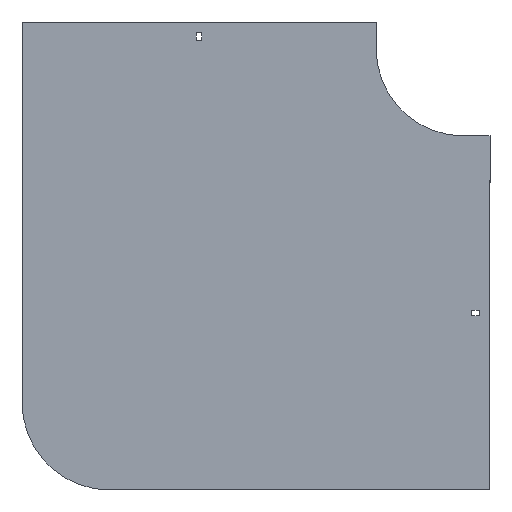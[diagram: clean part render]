
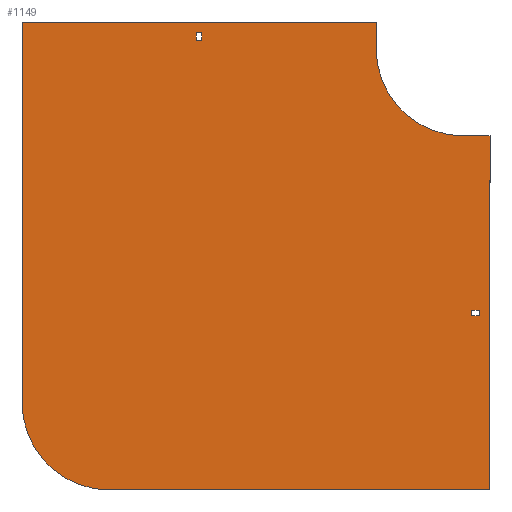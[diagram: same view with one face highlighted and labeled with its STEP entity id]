
A CAD part, front view. The second image highlights one B-rep face of the part: STEP entity #1149.
In plain terms, the highlighted planar face has unit normal (0, -1, 0).
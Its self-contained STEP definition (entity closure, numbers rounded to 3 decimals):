
#3 = LINE ( 'NONE', #772, #1320 ) ;
#5 = LINE ( 'NONE', #975, #1184 ) ;
#21 = DIRECTION ( 'NONE',  ( 1., 0., 0. ) ) ;
#27 = DIRECTION ( 'NONE',  ( 0., 0., -1. ) ) ;
#52 = VERTEX_POINT ( 'NONE', #646 ) ;
#72 = VERTEX_POINT ( 'NONE', #1010 ) ;
#111 = EDGE_CURVE ( 'NONE', #499, #1269, #369, .T. ) ;
#120 = ORIENTED_EDGE ( 'NONE', *, *, #389, .F. ) ;
#139 = VERTEX_POINT ( 'NONE', #1370 ) ;
#147 = DIRECTION ( 'NONE',  ( 0., 0., 1. ) ) ;
#150 = ORIENTED_EDGE ( 'NONE', *, *, #111, .F. ) ;
#153 = AXIS2_PLACEMENT_3D ( 'NONE', #881, #343, #1202 ) ;
#157 = DIRECTION ( 'NONE',  ( 0., 0., 1. ) ) ;
#160 = LINE ( 'NONE', #1106, #757 ) ;
#176 = LINE ( 'NONE', #619, #347 ) ;
#178 = EDGE_CURVE ( 'NONE', #1135, #312, #821, .T. ) ;
#181 = CARTESIAN_POINT ( 'NONE',  ( -404., 0., -404. ) ) ;
#182 = ORIENTED_EDGE ( 'NONE', *, *, #1034, .T. ) ;
#194 = ORIENTED_EDGE ( 'NONE', *, *, #832, .F. ) ;
#199 = DIRECTION ( 'NONE',  ( 1., 0., 0. ) ) ;
#218 = EDGE_CURVE ( 'NONE', #1060, #979, #5, .T. ) ;
#232 = CARTESIAN_POINT ( 'NONE',  ( 9., 0., -305.25 ) ) ;
#233 = DIRECTION ( 'NONE',  ( -1., 0., 0. ) ) ;
#234 = ORIENTED_EDGE ( 'NONE', *, *, #1319, .F. ) ;
#255 = CARTESIAN_POINT ( 'NONE',  ( 30., 0., -100. ) ) ;
#260 = DIRECTION ( 'NONE',  ( 0., 0., -1. ) ) ;
#263 = EDGE_LOOP ( 'NONE', ( #120, #444, #436, #1337, #234, #403, #194, #1126 ) ) ;
#281 = EDGE_CURVE ( 'NONE', #72, #983, #775, .T. ) ;
#284 = LINE ( 'NONE', #303, #1341 ) ;
#292 = VERTEX_POINT ( 'NONE', #1313 ) ;
#299 = CARTESIAN_POINT ( 'NONE',  ( 18., 0., -305.25 ) ) ;
#303 = CARTESIAN_POINT ( 'NONE',  ( -298.75, 0., 9. ) ) ;
#312 = VERTEX_POINT ( 'NONE', #441 ) ;
#323 = DIRECTION ( 'NONE',  ( 0., 1., 0. ) ) ;
#337 = CARTESIAN_POINT ( 'NONE',  ( -404., 0., -504. ) ) ;
#343 = DIRECTION ( 'NONE',  ( 0., -1., 0. ) ) ;
#347 = VECTOR ( 'NONE', #233, 1000. ) ;
#357 = VECTOR ( 'NONE', #27, 1000. ) ;
#369 = LINE ( 'NONE', #1224, #1291 ) ;
#389 = EDGE_CURVE ( 'NONE', #139, #1060, #1056, .T. ) ;
#403 = ORIENTED_EDGE ( 'NONE', *, *, #520, .F. ) ;
#418 = LINE ( 'NONE', #507, #952 ) ;
#435 = FACE_OUTER_BOUND ( 'NONE', #263, .T. ) ;
#436 = ORIENTED_EDGE ( 'NONE', *, *, #178, .F. ) ;
#441 = CARTESIAN_POINT ( 'NONE',  ( -504., 0., -404. ) ) ;
#442 = FACE_BOUND ( 'NONE', #1288, .T. ) ;
#444 = ORIENTED_EDGE ( 'NONE', *, *, #477, .F. ) ;
#463 = VERTEX_POINT ( 'NONE', #903 ) ;
#477 = EDGE_CURVE ( 'NONE', #312, #139, #160, .T. ) ;
#489 = ORIENTED_EDGE ( 'NONE', *, *, #558, .F. ) ;
#499 = VERTEX_POINT ( 'NONE', #783 ) ;
#507 = CARTESIAN_POINT ( 'NONE',  ( -305.25, 0., 9. ) ) ;
#510 = VECTOR ( 'NONE', #21, 1000. ) ;
#511 = ORIENTED_EDGE ( 'NONE', *, *, #1021, .T. ) ;
#512 = VERTEX_POINT ( 'NONE', #579 ) ;
#520 = EDGE_CURVE ( 'NONE', #726, #779, #770, .T. ) ;
#552 = LINE ( 'NONE', #1385, #953 ) ;
#558 = EDGE_CURVE ( 'NONE', #463, #499, #176, .T. ) ;
#579 = CARTESIAN_POINT ( 'NONE',  ( -305.25, 0., 9. ) ) ;
#619 = CARTESIAN_POINT ( 'NONE',  ( 9., 0., -298.75 ) ) ;
#646 = CARTESIAN_POINT ( 'NONE',  ( -298.75, 0., 9. ) ) ;
#673 = DIRECTION ( 'NONE',  ( 1., 0., 0. ) ) ;
#677 = CARTESIAN_POINT ( 'NONE',  ( -305.25, 0., 9. ) ) ;
#704 = CARTESIAN_POINT ( 'NONE',  ( 18., 0., -305.25 ) ) ;
#710 = DIRECTION ( 'NONE',  ( 0., 0., -1. ) ) ;
#713 = EDGE_CURVE ( 'NONE', #292, #1135, #552, .T. ) ;
#721 = EDGE_CURVE ( 'NONE', #966, #463, #1071, .T. ) ;
#726 = VERTEX_POINT ( 'NONE', #729 ) ;
#729 = CARTESIAN_POINT ( 'NONE',  ( 0., 0., -100. ) ) ;
#755 = DIRECTION ( 'NONE',  ( 0., 0., 1. ) ) ;
#757 = VECTOR ( 'NONE', #147, 1000. ) ;
#762 = FACE_BOUND ( 'NONE', #1075, .T. ) ;
#770 = LINE ( 'NONE', #1063, #800 ) ;
#772 = CARTESIAN_POINT ( 'NONE',  ( 9., 0., -305.25 ) ) ;
#775 = LINE ( 'NONE', #981, #510 ) ;
#779 = VERTEX_POINT ( 'NONE', #255 ) ;
#783 = CARTESIAN_POINT ( 'NONE',  ( 9., 0., -298.75 ) ) ;
#800 = VECTOR ( 'NONE', #199, 1000. ) ;
#821 = CIRCLE ( 'NONE', #868, 100. ) ;
#832 = EDGE_CURVE ( 'NONE', #979, #726, #951, .T. ) ;
#837 = CARTESIAN_POINT ( 'NONE',  ( -100., 0., 30. ) ) ;
#840 = DIRECTION ( 'NONE',  ( -1., 0., 0. ) ) ;
#845 = DIRECTION ( 'NONE',  ( -1., 0., 0. ) ) ;
#865 = DIRECTION ( 'NONE',  ( 0., -1., 0. ) ) ;
#868 = AXIS2_PLACEMENT_3D ( 'NONE', #181, #323, #755 ) ;
#877 = ORIENTED_EDGE ( 'NONE', *, *, #1278, .F. ) ;
#881 = CARTESIAN_POINT ( 'NONE',  ( 0., 0., 0. ) ) ;
#900 = VECTOR ( 'NONE', #157, 1000. ) ;
#903 = CARTESIAN_POINT ( 'NONE',  ( 18., 0., -298.75 ) ) ;
#908 = CARTESIAN_POINT ( 'NONE',  ( -298.75, 0., 18. ) ) ;
#934 = CARTESIAN_POINT ( 'NONE',  ( -504., 0., 30. ) ) ;
#935 = ORIENTED_EDGE ( 'NONE', *, *, #721, .F. ) ;
#951 = CIRCLE ( 'NONE', #153, 100. ) ;
#952 = VECTOR ( 'NONE', #845, 1000. ) ;
#953 = VECTOR ( 'NONE', #840, 1000. ) ;
#966 = VERTEX_POINT ( 'NONE', #704 ) ;
#975 = CARTESIAN_POINT ( 'NONE',  ( -100., 0., 30. ) ) ;
#979 = VERTEX_POINT ( 'NONE', #1113 ) ;
#981 = CARTESIAN_POINT ( 'NONE',  ( -305.25, 0., 18. ) ) ;
#983 = VERTEX_POINT ( 'NONE', #908 ) ;
#996 = CARTESIAN_POINT ( 'NONE',  ( 30., 0., -100. ) ) ;
#1000 = VECTOR ( 'NONE', #1373, 1000. ) ;
#1008 = LINE ( 'NONE', #996, #357 ) ;
#1010 = CARTESIAN_POINT ( 'NONE',  ( -305.25, 0., 18. ) ) ;
#1021 = EDGE_CURVE ( 'NONE', #52, #512, #418, .T. ) ;
#1034 = EDGE_CURVE ( 'NONE', #983, #52, #284, .T. ) ;
#1056 = LINE ( 'NONE', #934, #1000 ) ;
#1060 = VERTEX_POINT ( 'NONE', #837 ) ;
#1062 = DIRECTION ( 'NONE',  ( 0., 0., 1. ) ) ;
#1063 = CARTESIAN_POINT ( 'NONE',  ( 0., 0., -100. ) ) ;
#1064 = VECTOR ( 'NONE', #1062, 1000. ) ;
#1071 = LINE ( 'NONE', #299, #1064 ) ;
#1075 = EDGE_LOOP ( 'NONE', ( #935, #877, #150, #489 ) ) ;
#1084 = DIRECTION ( 'NONE',  ( 0., 0., -1. ) ) ;
#1096 = CARTESIAN_POINT ( 'NONE',  ( 0., 0., 0. ) ) ;
#1106 = CARTESIAN_POINT ( 'NONE',  ( -504., 0., -404. ) ) ;
#1113 = CARTESIAN_POINT ( 'NONE',  ( -100., 0., 0. ) ) ;
#1126 = ORIENTED_EDGE ( 'NONE', *, *, #218, .F. ) ;
#1135 = VERTEX_POINT ( 'NONE', #337 ) ;
#1149 = ADVANCED_FACE ( 'NONE', ( #442, #435, #762 ), #1189, .T. ) ;
#1184 = VECTOR ( 'NONE', #1084, 1000. ) ;
#1185 = ORIENTED_EDGE ( 'NONE', *, *, #281, .T. ) ;
#1189 = PLANE ( 'NONE',  #1407 ) ;
#1202 = DIRECTION ( 'NONE',  ( 0., 0., -1. ) ) ;
#1224 = CARTESIAN_POINT ( 'NONE',  ( 9., 0., -305.25 ) ) ;
#1233 = LINE ( 'NONE', #677, #900 ) ;
#1265 = ORIENTED_EDGE ( 'NONE', *, *, #1363, .T. ) ;
#1269 = VERTEX_POINT ( 'NONE', #232 ) ;
#1278 = EDGE_CURVE ( 'NONE', #1269, #966, #3, .T. ) ;
#1288 = EDGE_LOOP ( 'NONE', ( #1265, #1185, #182, #511 ) ) ;
#1291 = VECTOR ( 'NONE', #260, 1000. ) ;
#1313 = CARTESIAN_POINT ( 'NONE',  ( 30., 0., -504. ) ) ;
#1319 = EDGE_CURVE ( 'NONE', #779, #292, #1008, .T. ) ;
#1320 = VECTOR ( 'NONE', #673, 1000. ) ;
#1337 = ORIENTED_EDGE ( 'NONE', *, *, #713, .F. ) ;
#1341 = VECTOR ( 'NONE', #710, 1000. ) ;
#1363 = EDGE_CURVE ( 'NONE', #512, #72, #1233, .T. ) ;
#1370 = CARTESIAN_POINT ( 'NONE',  ( -504., 0., 30. ) ) ;
#1373 = DIRECTION ( 'NONE',  ( 1., 0., 0. ) ) ;
#1382 = DIRECTION ( 'NONE',  ( 0., 0., -1. ) ) ;
#1385 = CARTESIAN_POINT ( 'NONE',  ( 30., 0., -504. ) ) ;
#1407 = AXIS2_PLACEMENT_3D ( 'NONE', #1096, #865, #1382 ) ;
